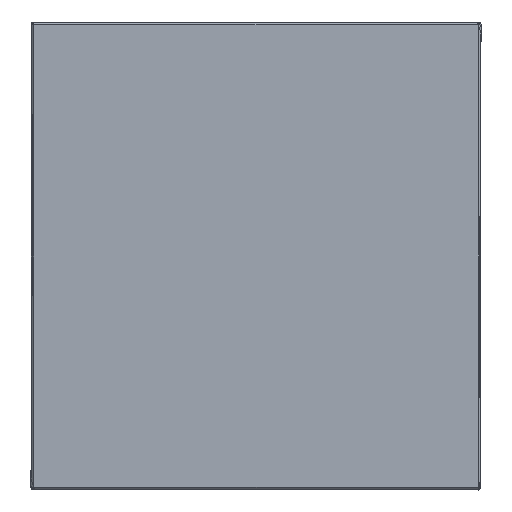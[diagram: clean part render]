
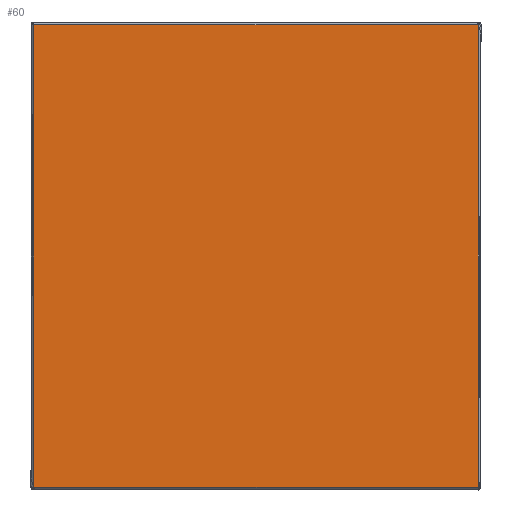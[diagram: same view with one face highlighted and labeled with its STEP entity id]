
A CAD part, left-side view. The second image highlights one B-rep face of the part: STEP entity #60.
In plain terms, the highlighted planar face has unit normal (-1, 0, 0).
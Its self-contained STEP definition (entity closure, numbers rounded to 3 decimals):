
#13=PLANE('',#626);
#60=ADVANCED_FACE('',(#101),#13,.T.);
#101=FACE_OUTER_BOUND('',#142,.T.);
#142=EDGE_LOOP('',(#227,#228,#229,#230));
#227=ORIENTED_EDGE('',*,*,#332,.F.);
#228=ORIENTED_EDGE('',*,*,#344,.F.);
#229=ORIENTED_EDGE('',*,*,#342,.F.);
#230=ORIENTED_EDGE('',*,*,#340,.F.);
#332=EDGE_CURVE('',#478,#488,#397,.T.);
#340=EDGE_CURVE('',#488,#493,#401,.T.);
#342=EDGE_CURVE('',#493,#483,#403,.T.);
#344=EDGE_CURVE('',#483,#478,#405,.T.);
#397=B_SPLINE_CURVE_WITH_KNOTS('',1,(#1115,#1116),.UNSPECIFIED.,.F.,.F.,
(2,2),(0.,46.3),.UNSPECIFIED.);
#401=B_SPLINE_CURVE_WITH_KNOTS('',1,(#1135,#1136),.UNSPECIFIED.,.F.,.F.,
(2,2),(0.,44.5),.UNSPECIFIED.);
#403=B_SPLINE_CURVE_WITH_KNOTS('',1,(#1139,#1140),.UNSPECIFIED.,.F.,.F.,
(2,2),(0.,46.3),.UNSPECIFIED.);
#405=B_SPLINE_CURVE_WITH_KNOTS('',1,(#1143,#1144),.UNSPECIFIED.,.F.,.F.,
(2,2),(0.,44.5),.UNSPECIFIED.);
#478=VERTEX_POINT('',#1047);
#483=VERTEX_POINT('',#1052);
#488=VERTEX_POINT('',#1057);
#493=VERTEX_POINT('',#1062);
#626=AXIS2_PLACEMENT_3D('',#1044,#655,$);
#655=DIRECTION('',(-1.,0.,0.));
#1044=CARTESIAN_POINT('',(-1020.561,147.22,10.306));
#1047=CARTESIAN_POINT('',(-1020.561,151.79,5.556));
#1052=CARTESIAN_POINT('',(-1020.561,196.29,5.556));
#1057=CARTESIAN_POINT('',(-1020.561,151.79,-40.744));
#1062=CARTESIAN_POINT('',(-1020.561,196.29,-40.744));
#1115=CARTESIAN_POINT('',(-1020.561,151.79,5.556));
#1116=CARTESIAN_POINT('',(-1020.561,151.79,-40.744));
#1135=CARTESIAN_POINT('',(-1020.561,151.79,-40.744));
#1136=CARTESIAN_POINT('',(-1020.561,196.29,-40.744));
#1139=CARTESIAN_POINT('',(-1020.561,196.29,-40.744));
#1140=CARTESIAN_POINT('',(-1020.561,196.29,5.556));
#1143=CARTESIAN_POINT('',(-1020.561,196.29,5.556));
#1144=CARTESIAN_POINT('',(-1020.561,151.79,5.556));
